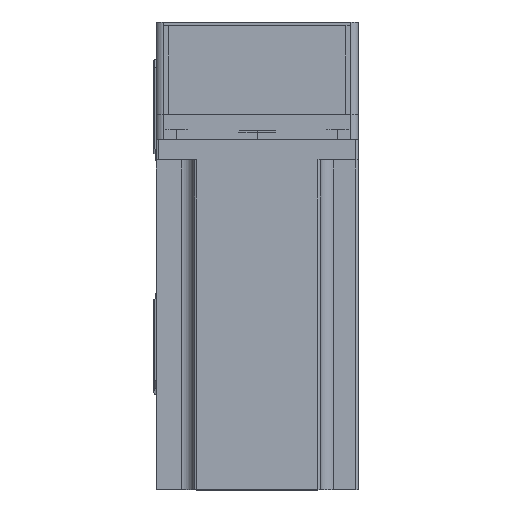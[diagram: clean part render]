
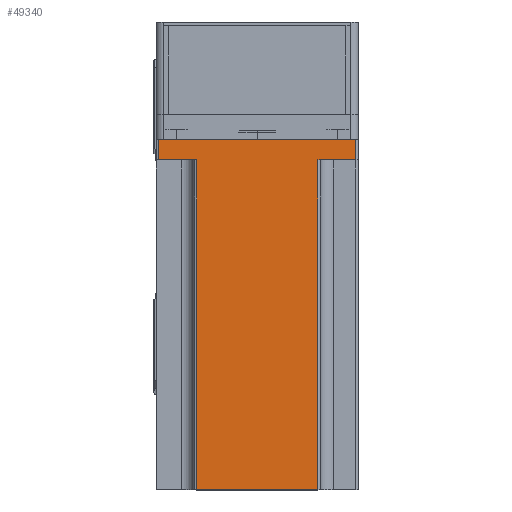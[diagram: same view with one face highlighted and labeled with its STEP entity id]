
A CAD part, top view. The second image highlights one B-rep face of the part: STEP entity #49340.
In plain terms, the highlighted planar face has unit normal (0, 0, 1) as drawn and (0, 1, 0) by its records, which use the part's own axes.
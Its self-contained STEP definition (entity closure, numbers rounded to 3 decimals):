
#106 = VECTOR ( 'NONE', #12533, 1000. ) ;
#761 = VECTOR ( 'NONE', #22296, 1000. ) ;
#1117 = EDGE_CURVE ( 'NONE', #34135, #31465, #38617, .T. ) ;
#2052 = LINE ( 'NONE', #46753, #761 ) ;
#2485 = VERTEX_POINT ( 'NONE', #13385 ) ;
#3056 = LINE ( 'NONE', #50531, #34365 ) ;
#3470 = CARTESIAN_POINT ( 'NONE',  ( -24., 40., 138.3 ) ) ;
#4281 = EDGE_CURVE ( 'NONE', #2485, #18442, #52738, .T. ) ;
#4707 = DIRECTION ( 'NONE',  ( 0., -1., 0. ) ) ;
#5475 = CARTESIAN_POINT ( 'NONE',  ( 39., 40., 0. ) ) ;
#6149 = VERTEX_POINT ( 'NONE', #10127 ) ;
#6651 = CARTESIAN_POINT ( 'NONE',  ( 39., 40., 8. ) ) ;
#10127 = CARTESIAN_POINT ( 'NONE',  ( -39., 40., 8. ) ) ;
#10255 = CARTESIAN_POINT ( 'NONE',  ( -24., 40., 138.3 ) ) ;
#11117 = VECTOR ( 'NONE', #20773, 1000. ) ;
#11644 = EDGE_CURVE ( 'NONE', #49339, #18442, #3056, .T. ) ;
#12533 = DIRECTION ( 'NONE',  ( 0., 0., 1. ) ) ;
#13385 = CARTESIAN_POINT ( 'NONE',  ( -24., 40., 8. ) ) ;
#13918 = LINE ( 'NONE', #39615, #42661 ) ;
#15760 = ORIENTED_EDGE ( 'NONE', *, *, #11644, .F. ) ;
#17891 = DIRECTION ( 'NONE',  ( -1., 0., 0. ) ) ;
#18442 = VERTEX_POINT ( 'NONE', #10255 ) ;
#18582 = ORIENTED_EDGE ( 'NONE', *, *, #1117, .F. ) ;
#19289 = CARTESIAN_POINT ( 'NONE',  ( 24., 40., 138.3 ) ) ;
#20136 = ORIENTED_EDGE ( 'NONE', *, *, #37970, .T. ) ;
#20755 = LINE ( 'NONE', #19289, #51976 ) ;
#20773 = DIRECTION ( 'NONE',  ( -1., 0., 0. ) ) ;
#21892 = LINE ( 'NONE', #32877, #106 ) ;
#22296 = DIRECTION ( 'NONE',  ( 0., 0., -1. ) ) ;
#22505 = CARTESIAN_POINT ( 'NONE',  ( 24., 40., 8. ) ) ;
#23835 = DIRECTION ( 'NONE',  ( 0., 0., 1. ) ) ;
#25211 = VECTOR ( 'NONE', #52910, 1000. ) ;
#25332 = ORIENTED_EDGE ( 'NONE', *, *, #47504, .T. ) ;
#25918 = CARTESIAN_POINT ( 'NONE',  ( -39., 40., 0. ) ) ;
#26672 = ORIENTED_EDGE ( 'NONE', *, *, #50344, .T. ) ;
#26757 = AXIS2_PLACEMENT_3D ( 'NONE', #29227, #4707, #33301 ) ;
#28282 = VERTEX_POINT ( 'NONE', #5475 ) ;
#28510 = CARTESIAN_POINT ( 'NONE',  ( 25., 40., 8. ) ) ;
#29227 = CARTESIAN_POINT ( 'NONE',  ( 40., 40., 138.3 ) ) ;
#30852 = ORIENTED_EDGE ( 'NONE', *, *, #47914, .T. ) ;
#31047 = ORIENTED_EDGE ( 'NONE', *, *, #37191, .T. ) ;
#31465 = VERTEX_POINT ( 'NONE', #22505 ) ;
#32877 = CARTESIAN_POINT ( 'NONE',  ( -39., 40., 138.3 ) ) ;
#33122 = CARTESIAN_POINT ( 'NONE',  ( 24., 40., 138.3 ) ) ;
#33301 = DIRECTION ( 'NONE',  ( 1., 0., 0. ) ) ;
#34135 = VERTEX_POINT ( 'NONE', #6651 ) ;
#34365 = VECTOR ( 'NONE', #17891, 1000. ) ;
#34699 = EDGE_LOOP ( 'NONE', ( #26672, #47337, #15760, #30852, #18582, #31047, #25332, #20136 ) ) ;
#37191 = EDGE_CURVE ( 'NONE', #34135, #28282, #2052, .T. ) ;
#37212 = PLANE ( 'NONE',  #26757 ) ;
#37970 = EDGE_CURVE ( 'NONE', #45835, #6149, #21892, .T. ) ;
#38617 = LINE ( 'NONE', #28510, #25211 ) ;
#38968 = FACE_OUTER_BOUND ( 'NONE', #34699, .T. ) ;
#39573 = DIRECTION ( 'NONE',  ( 0., 0., -1. ) ) ;
#39615 = CARTESIAN_POINT ( 'NONE',  ( -25., 40., 8. ) ) ;
#41903 = VECTOR ( 'NONE', #23835, 1000. ) ;
#42446 = LINE ( 'NONE', #45195, #11117 ) ;
#42661 = VECTOR ( 'NONE', #43740, 1000. ) ;
#43740 = DIRECTION ( 'NONE',  ( 1., 0., 0. ) ) ;
#45195 = CARTESIAN_POINT ( 'NONE',  ( 40., 40., 0. ) ) ;
#45835 = VERTEX_POINT ( 'NONE', #25918 ) ;
#46753 = CARTESIAN_POINT ( 'NONE',  ( 39., 40., 138.3 ) ) ;
#47337 = ORIENTED_EDGE ( 'NONE', *, *, #4281, .T. ) ;
#47504 = EDGE_CURVE ( 'NONE', #28282, #45835, #42446, .T. ) ;
#47914 = EDGE_CURVE ( 'NONE', #49339, #31465, #20755, .T. ) ;
#49339 = VERTEX_POINT ( 'NONE', #33122 ) ;
#49340 = ADVANCED_FACE ( 'NONE', ( #38968 ), #37212, .F. ) ;
#50344 = EDGE_CURVE ( 'NONE', #6149, #2485, #13918, .T. ) ;
#50531 = CARTESIAN_POINT ( 'NONE',  ( 40., 40., 138.3 ) ) ;
#51976 = VECTOR ( 'NONE', #39573, 1000. ) ;
#52738 = LINE ( 'NONE', #3470, #41903 ) ;
#52910 = DIRECTION ( 'NONE',  ( -1., 0., 0. ) ) ;
